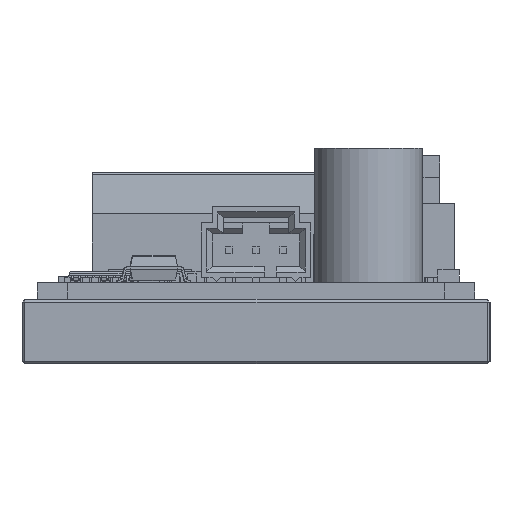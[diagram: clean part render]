
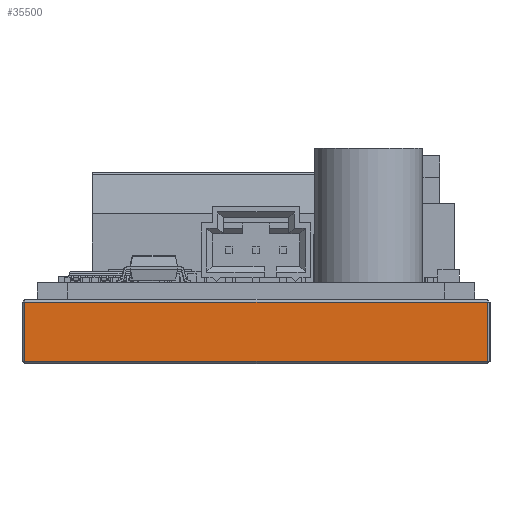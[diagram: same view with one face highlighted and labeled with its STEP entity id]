
A CAD part, left-side view. The second image highlights one B-rep face of the part: STEP entity #35500.
In plain terms, the highlighted planar face has unit normal (-1, 0, 0).
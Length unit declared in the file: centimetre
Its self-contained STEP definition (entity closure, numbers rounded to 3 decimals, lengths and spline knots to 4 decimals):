
#19257=VECTOR('',#38282,1.);
#19262=VECTOR('',#38289,1.);
#19273=VECTOR('',#38304,1.);
#19274=VECTOR('',#38306,1.);
#21290=LINE('',#43086,#19257);
#21295=LINE('',#43096,#19262);
#21306=LINE('',#43117,#19273);
#21307=LINE('',#43119,#19274);
#23323=PLANE('',#36498);
#24108=VERTEX_POINT('',#43073);
#24111=VERTEX_POINT('',#43080);
#24116=VERTEX_POINT('',#43093);
#24122=VERTEX_POINT('',#43113);
#25950=EDGE_CURVE('',#24111,#24108,#21290,.T.);
#25955=EDGE_CURVE('',#24108,#24116,#21295,.T.);
#25966=EDGE_CURVE('',#24116,#24122,#21306,.T.);
#25967=EDGE_CURVE('',#24122,#24111,#21307,.T.);
#28502=ORIENTED_EDGE('',*,*,#25950,.F.);
#28503=ORIENTED_EDGE('',*,*,#25967,.F.);
#28504=ORIENTED_EDGE('',*,*,#25966,.F.);
#28505=ORIENTED_EDGE('',*,*,#25955,.F.);
#33372=EDGE_LOOP('',(#28502,#28503,#28504,#28505));
#34438=FACE_BOUND('',#33372,.T.);
#35500=ADVANCED_FACE('',(#34438),#23323,.T.);
#36498=AXIS2_PLACEMENT_3D('',#43164,#38342,$);
#38282=DIRECTION('',(0.,0.,-1.));
#38289=DIRECTION('',(0.,1.,0.));
#38304=DIRECTION('',(0.,0.,1.));
#38306=DIRECTION('',(0.,-1.,0.));
#38342=DIRECTION('',(-1.,0.,0.));
#43073=CARTESIAN_POINT('',(-2.175,-2.1496,0.0254));
#43080=CARTESIAN_POINT('',(-2.175,-2.1496,0.5746));
#43086=CARTESIAN_POINT('',(-2.175,-2.1496,0.));
#43093=CARTESIAN_POINT('',(-2.175,2.1496,0.0254));
#43096=CARTESIAN_POINT('',(-2.175,0.,0.0254));
#43113=CARTESIAN_POINT('',(-2.175,2.1496,0.5746));
#43117=CARTESIAN_POINT('',(-2.175,2.1496,0.));
#43119=CARTESIAN_POINT('',(-2.175,0.,0.5746));
#43164=CARTESIAN_POINT('',(-2.175,0.,0.));
